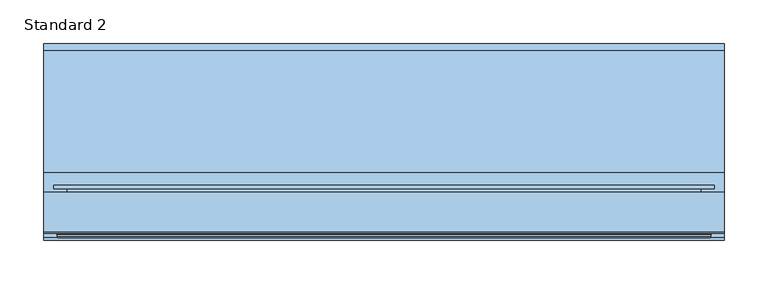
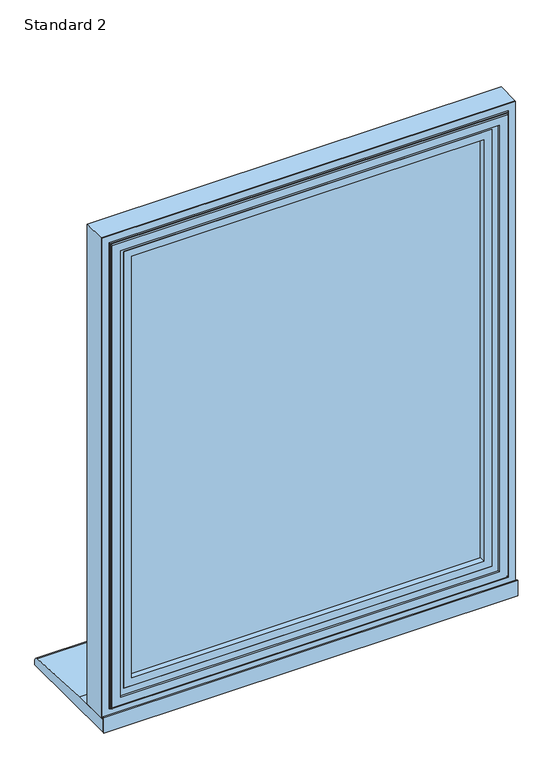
"""IFC4 building model written with IfcOpenShell, lengths in millimetres: window geometry, SMARTS_AlithermHeritage : Standard 2."""

from ifc_helpers import new_model, si_unit, point, frame, frame_2d, origin, place, context, project, spatial, polyline, circle_curve, ellipse_curve, trimmed, segment, composite_curve, outline, extrude, source, transform, mapped, element, save
from ifc_brep_helpers import plane_surface, cylinder_surface, revolved_surface, advanced_brep


def standard_2_ab6319b0(model_context):
    return source(origin(), model_context, "Body", "SolidModel", [
        extrude(outline(polyline([(1590.0, 390.0), (1590.0, -390.0), (635.0, -390.0), (635.0, 390.0), (1590.0, 390.0)]), holes=[polyline([(652.7000182, 372.2999818), (652.7000182, -372.2999818), (1572.2999818, -372.2999818), (1572.2999818, 372.2999818), (652.7000182, 372.2999818)])]), frame((0.0, 50.279857, 0.0), z_axis=(0.0, 1.0, 0.0), x_axis=(0.0, 0.0, 1.0)), (0.0, 0.0, 1.0), 44.9999962),
        advanced_brep(
        [(357.0, 43.2798432, 1557.0), (357.0, 47.2798432, 1557.0), (357.0, 47.2798432, 668.0), (357.0, 43.2798432, 668.0), (390.0, 50.279857, 1590.0), (390.0, 48.279857, 1590.0), (390.0, 48.279857, 635.0), (390.0, 50.279857, 635.0), (372.4999818, 43.2798432, 1572.4999818), (-372.4999818, 43.2798432, 1572.4999818), (-372.4999818, 43.2798432, 652.5000182), (372.4999818, 43.2798432, 652.5000182), (-357.0, 43.2798432, 668.0), (-357.0, 43.2798432, 1557.0), (-390.0, 50.279857, 1590.0), (-390.0, 48.279857, 1590.0), (-390.0, 50.279857, 635.0), (372.2999818, 50.279857, 1572.2999818), (-372.2999818, 50.279857, 1572.2999818), (-372.2999818, 50.279857, 652.7000182), (372.2999818, 50.279857, 652.7000182), (-357.0, 47.2798432, 1557.0), (-357.0, 47.2798432, 668.0), (-390.0, 48.279857, 635.0), (-372.2999818, 47.2798432, 1572.2999818), (372.2999818, 47.2798432, 1572.2999818), (372.2999818, 47.2798432, 652.7000182), (374.4999818, 46.779857, 650.5000182), (374.4999818, 45.2798432, 650.5000182), (-374.4999818, 45.2798432, 650.5000182), (-374.4999818, 46.779857, 650.5000182), (374.4999818, 46.779857, 1574.4999818), (374.4999818, 45.2798432, 1574.4999818), (-372.2999818, 47.2798432, 652.7000182), (-374.4999818, 45.2798432, 1574.4999818), (-374.4999818, 46.779857, 1574.4999818), (375.9999818, 48.279857, 1575.9999818), (375.9999818, 48.279857, 649.0000182), (-375.9999818, 48.279857, 649.0000182), (-375.9999818, 48.279857, 1575.9999818)],
        [
            (0, 1),
            (1, 2),
            (2, 3),
            (3, 0),
            (4, 5),
            (5, 6),
            (6, 7),
            (7, 4),
            (8, 9),
            (9, 10),
            (10, 11),
            (11, 8),
            (3, 12),
            (12, 13),
            (13, 0),
            (14, 15),
            (15, 5),
            (4, 14),
            (7, 16),
            (16, 14),
            (17, 18),
            (18, 19),
            (19, 20),
            (20, 17),
            (13, 21),
            (21, 1),
            (2, 22),
            (22, 12),
            (22, 21),
            (6, 23),
            (23, 16),
            (23, 15),
            (24, 18),
            (17, 25),
            (25, 24),
            (20, 26),
            (26, 25),
            (27, 28),
            (28, 29),
            (29, 30),
            (30, 27),
            (31, 32),
            (32, 28),
            (27, 31),
            (19, 33),
            (33, 26),
            (24, 33),
            (29, 34),
            (34, 35),
            (35, 30),
            (34, 32),
            (31, 35),
            (36, 31, ellipse_curve(frame((375.9999818, 46.779857, 1575.9999818), z_axis=(-0.7071067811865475, 0.0, 0.7071067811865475), x_axis=(-0.7071067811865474, 0.0, -0.7071067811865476)), 2.1213203, 1.5)),
            (27, 37, ellipse_curve(frame((375.9999818, 46.779857, 649.0000182), z_axis=(-0.7071067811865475, 0.0, -0.7071067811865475), x_axis=(0.7071067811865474, 0.0, -0.7071067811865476)), 2.1213203, 1.5)),
            (37, 36),
            (30, 38, ellipse_curve(frame((-375.9999818, 46.779857, 649.0000182), z_axis=(-0.7071067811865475, 0.0, 0.7071067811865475), x_axis=(-0.7071067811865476, 0.0, -0.7071067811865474)), 2.1213203, 1.5)),
            (38, 37),
            (35, 39, ellipse_curve(frame((-375.9999818, 46.779857, 1575.9999818), z_axis=(0.7071067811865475, 0.0, 0.7071067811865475), x_axis=(-0.7071067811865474, 0.0, 0.7071067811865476)), 2.1213203, 1.5)),
            (39, 38),
            (36, 39),
            (32, 8, ellipse_curve(frame((372.4999818, 45.2798432, 1572.4999818), z_axis=(0.7071067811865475, 0.0, -0.7071067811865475), x_axis=(0.7071067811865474, 0.0, 0.7071067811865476)), 2.8284271, 2.0)),
            (11, 28, ellipse_curve(frame((372.4999818, 45.2798432, 652.5000182), z_axis=(0.7071067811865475, 0.0, 0.7071067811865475), x_axis=(-0.7071067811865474, 0.0, 0.7071067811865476)), 2.8284271, 2.0)),
            (10, 29, ellipse_curve(frame((-372.4999818, 45.2798432, 652.5000182), z_axis=(0.7071067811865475, 0.0, -0.7071067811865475), x_axis=(0.7071067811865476, 0.0, 0.7071067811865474)), 2.8284271, 2.0)),
            (9, 34, ellipse_curve(frame((-372.4999818, 45.2798432, 1572.4999818), z_axis=(-0.7071067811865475, 0.0, -0.7071067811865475), x_axis=(0.7071067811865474, 0.0, -0.7071067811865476)), 2.8284271, 2.0)),
        ],
        [
            plane_surface(frame((357.0, 47.2798432, 1557.0), z_axis=(-1.0, 0.0, 0.0), x_axis=(0.0, 0.0, -1.0))),
            plane_surface(frame((390.0, 48.279857, 1590.0), z_axis=(1.0, 0.0, 0.0), x_axis=(0.0, 0.0, -1.0))),
            plane_surface(frame((-357.0, 43.2798432, 1557.0), z_axis=(0.0, -1.0, 0.0), x_axis=(1.0, 0.0, 0.0))),
            plane_surface(frame((-390.0, 48.279857, 1590.0), z_axis=(0.0, 0.0, 1.0), x_axis=(1.0, 0.0, 0.0))),
            plane_surface(frame((-390.0, 50.279857, 1590.0), z_axis=(0.0, 1.0, 0.0), x_axis=(1.0, 0.0, 0.0))),
            plane_surface(frame((-357.0, 47.2798432, 1557.0), z_axis=(0.0, 0.0, -1.0), x_axis=(1.0, 0.0, 0.0))),
            plane_surface(frame((357.0, 47.2798432, 668.0), z_axis=(0.0, 0.0, 1.0), x_axis=(-1.0, 0.0, 0.0))),
            plane_surface(frame((-357.0, 47.2798432, 668.0), z_axis=(1.0, 0.0, 0.0), x_axis=(0.0, 0.0, 1.0))),
            plane_surface(frame((390.0, 48.279857, 635.0), z_axis=(0.0, 0.0, -1.0), x_axis=(-1.0, 0.0, 0.0))),
            plane_surface(frame((-390.0, 48.279857, 635.0), z_axis=(-1.0, 0.0, 0.0), x_axis=(0.0, 0.0, 1.0))),
            plane_surface(frame((-372.2999818, 50.279857, 1572.2999818), z_axis=(0.0, 0.0, -1.0), x_axis=(1.0, 0.0, 0.0))),
            plane_surface(frame((372.2999818, 50.279857, 1572.2999818), z_axis=(-1.0, 0.0, 0.0), x_axis=(0.0, 0.0, -1.0))),
            plane_surface(frame((374.4999818, 45.2798432, 650.5000182), z_axis=(0.0, 0.0, -1.0), x_axis=(-1.0, 0.0, 0.0))),
            plane_surface(frame((374.4999818, 45.2798432, 1574.4999818), z_axis=(1.0, 0.0, 0.0), x_axis=(0.0, 0.0, -1.0))),
            plane_surface(frame((372.2999818, 50.279857, 652.7000182), z_axis=(0.0, 0.0, 1.0), x_axis=(-1.0, 0.0, 0.0))),
            plane_surface(frame((-372.2999818, 50.279857, 652.7000182), z_axis=(1.0, 0.0, 0.0), x_axis=(0.0, 0.0, 1.0))),
            plane_surface(frame((-374.4999818, 45.2798432, 650.5000182), z_axis=(-1.0, 0.0, 0.0), x_axis=(0.0, 0.0, 1.0))),
            plane_surface(frame((-372.2999818, 47.2798432, 1572.2999818), z_axis=(0.0, 1.0, 0.0), x_axis=(1.0, 0.0, 0.0))),
            plane_surface(frame((-374.4999818, 45.2798432, 1574.4999818), z_axis=(0.0, 0.0, 1.0), x_axis=(1.0, 0.0, 0.0))),
            revolved_surface(polyline([(374.4999818, 46.779857, 647.5000182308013), (374.4999818, 46.779857, 1577.4999817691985)]), (375.9999818, 46.779857, 1590.0), (0.0, 0.0, -1.0)),
            revolved_surface(polyline([(-377.4999817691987, 46.779857, 650.5000182), (377.49998176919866, 46.779857, 650.5000182)]), (390.0, 46.779857, 649.0000182), (-1.0, 0.0, 0.0)),
            revolved_surface(polyline([(-374.4999818, 46.779857, 1577.4999817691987), (-374.4999818, 46.779857, 647.5000182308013)]), (-375.9999818, 46.779857, 635.0), (0.0, 0.0, 1.0)),
            revolved_surface(polyline([(377.4999817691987, 46.779857, 1574.4999818), (-377.49998176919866, 46.779857, 1574.4999818)]), (-390.0, 46.779857, 1575.9999818), (1.0, 0.0, 0.0)),
            plane_surface(frame((-375.9999818, 48.279857, 1575.9999818), z_axis=(0.0, -1.0, 0.0), x_axis=(1.0, 0.0, 0.0))),
            cylinder_surface(frame((372.4999818, 45.2798432, 1590.0), z_axis=(0.0, 0.0, 1.0), x_axis=(-1.0, 0.0, 0.0)), 2.0),
            cylinder_surface(frame((390.0, 45.2798432, 652.5000182), z_axis=(1.0, 0.0, 0.0), x_axis=(0.0, 0.0, 1.0)), 2.0),
            cylinder_surface(frame((-372.4999818, 45.2798432, 635.0), z_axis=(0.0, 0.0, -1.0), x_axis=(1.0, 0.0, 0.0)), 2.0),
            cylinder_surface(frame((-390.0, 45.2798432, 1572.4999818), z_axis=(-1.0, 0.0, 0.0), x_axis=(0.0, 0.0, -1.0)), 2.0),
        ],
        [
            (0, [[1, 2, 3, 4]]),
            (1, [[5, 6, 7, 8]]),
            (2, [[9, 10, 11, 12], [13, 14, 15, -4]]),
            (3, [[16, 17, -5, 18]]),
            (4, [[19, 20, -18, -8], [21, 22, 23, 24]]),
            (5, [[25, 26, -1, -15]]),
            (6, [[-3, 27, 28, -13]]),
            (7, [[-28, 29, -25, -14]]),
            (8, [[-7, 30, 31, -19]]),
            (9, [[-31, 32, -16, -20]]),
            (10, [[33, -21, 34, 35]]),
            (11, [[-34, -24, 36, 37]]),
            (12, [[38, 39, 40, 41]]),
            (13, [[42, 43, -38, 44]]),
            (14, [[-36, -23, 45, 46]]),
            (15, [[-45, -22, -33, 47]]),
            (16, [[-40, 48, 49, 50]]),
            (17, [[-46, -47, -35, -37], [-26, -29, -27, -2]]),
            (18, [[-49, 51, -42, 52]]),
            (19, [[53, -44, 54, 55]]),
            (20, [[-54, -41, 56, 57]]),
            (21, [[-56, -50, 58, 59]]),
            (22, [[-58, -52, -53, 60]]),
            (23, [[-17, -32, -30, -6], [-57, -59, -60, -55]]),
            (24, [[61, -12, 62, -43]]),
            (25, [[-62, -11, 63, -39]]),
            (26, [[-63, -10, 64, -48]]),
            (27, [[-64, -9, -61, -51]]),
        ],
    ),
        extrude(outline(polyline([(-343.5, 89.2798432), (343.5, 89.2798432), (343.5, 85.2798432), (-343.5, 85.2798432), (-343.5, 89.2798432)])), frame((0.0, 0.0, 681.5), z_axis=(0.0, 0.0, 1.0), x_axis=(1.0, 0.0, 0.0)), (0.0, 0.0, 1.0), 862.0),
        extrude(outline(polyline([(-343.5, 69.2798432), (343.5, 69.2798432), (343.5, 65.2798432), (-343.5, 65.2798432), (-343.5, 69.2798432)])), frame((0.0, 0.0, 681.5), z_axis=(0.0, 0.0, 1.0), x_axis=(1.0, 0.0, 0.0)), (0.0, 0.0, 1.0), 862.0),
        extrude(outline(polyline([(1543.5, -343.5), (681.5, -343.5), (681.5, 343.5), (1543.5, 343.5), (1543.5, -343.5)]), holes=[polyline([(1533.5, 333.5), (691.5, 333.5), (691.5, -333.5), (1533.5, -333.5), (1533.5, 333.5)])]), frame((0.0, 69.2798432, 0.0), z_axis=(0.0, 1.0, 0.0), x_axis=(0.0, 0.0, 1.0)), (0.0, 0.0, 1.0), 16.0),
        extrude(outline(polyline([(1547.0052956, -347.0052956), (677.9947044, -347.0052956), (677.9947044, 347.0052956), (1547.0052956, 347.0052956), (1547.0052956, -347.0052956)]), holes=[polyline([(1532.0, 332.0), (693.0, 332.0), (693.0, -332.0), (1532.0, -332.0), (1532.0, 332.0)])]), frame((0.0, 51.2798432, 0.0), z_axis=(0.0, 1.0, 0.0), x_axis=(0.0, 0.0, 1.0)), (0.0, 0.0, 1.0), 11.3),
        extrude(outline(polyline([(662.3548042, -362.6451958), (662.3548042, 362.6451958), (1562.6451958, 362.6451958), (1562.6451958, -362.6451958), (662.3548042, -362.6451958)]), holes=[polyline([(1547.0, -347.0), (1547.0, 347.0), (678.0, 347.0), (678.0, -347.0), (1547.0, -347.0)])]), frame((0.0, 51.2798432, 0.0), z_axis=(0.0, 1.0, 0.0), x_axis=(0.0, 0.0, 1.0)), (0.0, 0.0, 1.0), 41.6),
        advanced_brep(
        [(-332.0, 98.0798432, 1532.0), (-332.0, 92.8798432, 1532.0), (-332.0, 92.8798432, 693.0), (-332.0, 98.0798432, 693.0), (332.0, 92.8798432, 693.0), (332.0, 98.0798432, 693.0), (332.0, 92.8798432, 1532.0), (332.0, 98.0798432, 1532.0), (-378.2, 99.2798432, 1578.2), (-378.2, 103.2798432, 1578.2), (-378.2, 103.2798432, 646.8), (-378.2, 99.2798432, 646.8), (378.2, 103.2798432, 646.8), (378.2, 99.2798432, 646.8), (378.2, 103.2798432, 1578.2), (378.2, 99.2798432, 1578.2), (-363.1467657, 99.2798432, 1563.1467657), (363.1467657, 99.2798432, 1563.1467657), (363.1467657, 99.2798432, 661.8532343), (-363.1467657, 99.2798432, 661.8532343), (-349.2, 103.2798432, 675.8), (349.2, 103.2798432, 675.8), (349.2, 103.2798432, 1549.2), (-349.2, 103.2798432, 1549.2), (-363.1467657, 92.8798432, 1563.1467657), (-363.1467657, 92.8798432, 661.8532343), (363.1467657, 92.8798432, 661.8532343), (363.1467657, 92.8798432, 1563.1467657), (-347.2, 101.2798432, 1547.2), (-347.2, 100.0798432, 1547.2), (-347.2, 100.0798432, 677.8), (-347.2, 101.2798432, 677.8), (-345.2, 98.0798432, 1545.2), (-345.2, 98.0798432, 679.8), (347.2, 100.0798432, 677.8), (347.2, 101.2798432, 677.8), (345.2, 98.0798432, 679.8), (347.2, 100.0798432, 1547.2), (347.2, 101.2798432, 1547.2), (345.2, 98.0798432, 1545.2)],
        [
            (0, 1),
            (1, 2),
            (2, 3),
            (3, 0),
            (2, 4),
            (4, 5),
            (5, 3),
            (4, 6),
            (6, 7),
            (7, 5),
            (6, 1),
            (0, 7),
            (8, 9),
            (9, 10),
            (10, 11),
            (11, 8),
            (10, 12),
            (12, 13),
            (13, 11),
            (12, 14),
            (14, 15),
            (15, 13),
            (15, 8),
            (16, 17),
            (17, 18),
            (18, 19),
            (19, 16),
            (14, 9),
            (20, 21),
            (21, 22),
            (22, 23),
            (23, 20),
            (24, 16),
            (19, 25),
            (25, 24),
            (18, 26),
            (26, 25),
            (17, 27),
            (27, 26),
            (27, 24),
            (28, 29),
            (29, 30),
            (30, 31),
            (31, 28),
            (29, 32, ellipse_curve(frame((-345.2, 100.0798432, 1545.2), z_axis=(0.7071067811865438, 0.0, 0.7071067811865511), x_axis=(0.707106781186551, 0.0, -0.7071067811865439)), 2.8284271, 2.0)),
            (32, 33),
            (33, 30, ellipse_curve(frame((-345.2, 100.0798432, 679.8), z_axis=(0.7071067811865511, 0.0, -0.7071067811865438), x_axis=(-0.7071067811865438, 0.0, -0.7071067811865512)), 2.8284271, 2.0)),
            (30, 34),
            (34, 35),
            (35, 31),
            (33, 36),
            (36, 34, ellipse_curve(frame((345.2, 100.0798432, 679.8), z_axis=(0.7071067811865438, 0.0, 0.7071067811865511), x_axis=(0.7071067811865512, 0.0, -0.7071067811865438)), 2.8284271, 2.0)),
            (34, 37),
            (37, 38),
            (38, 35),
            (36, 39),
            (39, 37, ellipse_curve(frame((345.2, 100.0798432, 1545.2), z_axis=(-0.7071067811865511, 0.0, 0.7071067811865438), x_axis=(0.7071067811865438, 0.0, 0.7071067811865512)), 2.8284271, 2.0)),
            (32, 39),
            (37, 29),
            (28, 38),
            (23, 28, ellipse_curve(frame((-349.2, 101.2798432, 1549.2), z_axis=(-0.7071067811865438, 0.0, -0.7071067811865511), x_axis=(-0.707106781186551, 0.0, 0.7071067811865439)), 2.8284271, 2.0)),
            (31, 20, ellipse_curve(frame((-349.2, 101.2798432, 675.8), z_axis=(-0.7071067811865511, 0.0, 0.7071067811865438), x_axis=(0.7071067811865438, 0.0, 0.7071067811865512)), 2.8284271, 2.0)),
            (35, 21, ellipse_curve(frame((349.2, 101.2798432, 675.8), z_axis=(-0.7071067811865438, 0.0, -0.7071067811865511), x_axis=(-0.7071067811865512, 0.0, 0.7071067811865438)), 2.8284271, 2.0)),
            (38, 22, ellipse_curve(frame((349.2, 101.2798432, 1549.2), z_axis=(0.7071067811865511, 0.0, -0.7071067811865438), x_axis=(-0.7071067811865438, 0.0, -0.7071067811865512)), 2.8284271, 2.0)),
        ],
        [
            plane_surface(frame((-332.0, 92.8798432, 1532.0), z_axis=(1.0, 0.0, 0.0), x_axis=(0.0, 0.0, -1.0))),
            plane_surface(frame((-332.0, 92.8798432, 693.0), z_axis=(0.0, 0.0, 1.0), x_axis=(1.0, 0.0, 0.0))),
            plane_surface(frame((332.0, 92.8798432, 693.0), z_axis=(-1.0, 0.0, 0.0), x_axis=(0.0, 0.0, 1.0))),
            plane_surface(frame((332.0, 92.8798432, 1532.0), z_axis=(0.0, 0.0, -1.0), x_axis=(-1.0, 0.0, 0.0))),
            plane_surface(frame((-378.2, 103.2798432, 1578.2), z_axis=(-1.0, 0.0, 0.0), x_axis=(0.0, 0.0, -1.0))),
            plane_surface(frame((-378.2, 103.2798432, 646.8), z_axis=(0.0, 0.0, -1.0), x_axis=(1.0, 0.0, 0.0))),
            plane_surface(frame((378.2, 103.2798432, 646.8), z_axis=(1.0, 0.0, 0.0), x_axis=(0.0, 0.0, 1.0))),
            plane_surface(frame((378.2, 99.2798432, 1578.2), z_axis=(0.0, -1.0, 0.0), x_axis=(-1.0, 0.0, 0.0))),
            plane_surface(frame((378.2, 103.2798432, 1578.2), z_axis=(0.0, 0.0, 1.0), x_axis=(-1.0, 0.0, 0.0))),
            plane_surface(frame((349.2, 103.2798432, 1549.2), z_axis=(0.0, 1.0, 0.0), x_axis=(-1.0, 0.0, 0.0))),
            plane_surface(frame((-363.1467657, 99.2798432, 1563.1467657), z_axis=(-1.0, 0.0, 0.0), x_axis=(0.0, 0.0, -1.0))),
            plane_surface(frame((-363.1467657, 99.2798432, 661.8532343), z_axis=(0.0, 0.0, -1.0), x_axis=(1.0, 0.0, 0.0))),
            plane_surface(frame((363.1467657, 99.2798432, 661.8532343), z_axis=(1.0, 0.0, 0.0), x_axis=(0.0, 0.0, 1.0))),
            plane_surface(frame((363.1467657, 92.8798432, 1563.1467657), z_axis=(0.0, -1.0, 0.0), x_axis=(-1.0, 0.0, 0.0))),
            plane_surface(frame((363.1467657, 99.2798432, 1563.1467657), z_axis=(0.0, 0.0, 1.0), x_axis=(-1.0, 0.0, 0.0))),
            plane_surface(frame((-347.2, 100.0798432, 1547.2), z_axis=(1.0, 0.0, 0.0), x_axis=(0.0, 0.0, -1.0))),
            revolved_surface(polyline([(-347.2, 100.0798432, 677.8), (-347.2, 100.0798432, 1547.2)]), (-345.2, 100.0798432, 1557.0), (0.0, 0.0, -1.0)),
            plane_surface(frame((-347.2, 100.0798432, 677.8), z_axis=(0.0, 0.0, 1.0), x_axis=(1.0, 0.0, 0.0))),
            revolved_surface(polyline([(347.20000000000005, 100.0798432, 677.8), (-347.2, 100.0798432, 677.8)]), (-357.0, 100.0798432, 679.8), (1.0, 0.0, 0.0)),
            plane_surface(frame((347.2, 100.0798432, 677.8), z_axis=(-1.0, 0.0, 0.0), x_axis=(0.0, 0.0, 1.0))),
            revolved_surface(polyline([(347.2, 100.0798432, 1547.2), (347.2, 100.0798432, 677.8)]), (345.2, 100.0798432, 668.0), (0.0, 0.0, 1.0)),
            plane_surface(frame((332.0, 98.0798432, 1532.0), z_axis=(0.0, 1.0, 0.0), x_axis=(-1.0, 0.0, 0.0))),
            plane_surface(frame((347.2, 100.0798432, 1547.2), z_axis=(0.0, 0.0, -1.0), x_axis=(-1.0, 0.0, 0.0))),
            revolved_surface(polyline([(-347.20000000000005, 100.0798432, 1547.2), (347.2, 100.0798432, 1547.2)]), (357.0, 100.0798432, 1545.2), (-1.0, 0.0, 0.0)),
            cylinder_surface(frame((-349.2, 101.2798432, 1557.0), z_axis=(0.0, 0.0, 1.0), x_axis=(-1.0, 0.0, 0.0)), 2.0),
            cylinder_surface(frame((-357.0, 101.2798432, 675.8), z_axis=(-1.0, 0.0, 0.0), x_axis=(0.0, 0.0, -1.0)), 2.0),
            cylinder_surface(frame((349.2, 101.2798432, 668.0), z_axis=(0.0, 0.0, -1.0), x_axis=(1.0, 0.0, 0.0)), 2.0),
            cylinder_surface(frame((357.0, 101.2798432, 1549.2), z_axis=(1.0, 0.0, 0.0), x_axis=(0.0, 0.0, 1.0)), 2.0),
        ],
        [
            (0, [[1, 2, 3, 4]]),
            (1, [[-3, 5, 6, 7]]),
            (2, [[-6, 8, 9, 10]]),
            (3, [[-9, 11, -1, 12]]),
            (4, [[13, 14, 15, 16]]),
            (5, [[-15, 17, 18, 19]]),
            (6, [[-18, 20, 21, 22]]),
            (7, [[-19, -22, 23, -16], [24, 25, 26, 27]]),
            (8, [[-21, 28, -13, -23]]),
            (9, [[-28, -20, -17, -14], [29, 30, 31, 32]]),
            (10, [[33, -27, 34, 35]]),
            (11, [[-34, -26, 36, 37]]),
            (12, [[-36, -25, 38, 39]]),
            (13, [[-37, -39, 40, -35], [-11, -8, -5, -2]]),
            (14, [[-38, -24, -33, -40]]),
            (15, [[41, 42, 43, 44]]),
            (16, [[45, 46, 47, -42]]),
            (17, [[-43, 48, 49, 50]]),
            (18, [[-47, 51, 52, -48]]),
            (19, [[-49, 53, 54, 55]]),
            (20, [[-52, 56, 57, -53]]),
            (21, [[58, -56, -51, -46], [-7, -10, -12, -4]]),
            (22, [[-54, 59, -41, 60]]),
            (23, [[-57, -58, -45, -59]]),
            (24, [[61, -44, 62, -32]]),
            (25, [[-62, -50, 63, -29]]),
            (26, [[-63, -55, 64, -30]]),
            (27, [[-64, -60, -61, -31]]),
        ],
    ),
        extrude(outline(polyline([(390.0, 43.2798432), (390.0, 40.7798432), (-390.0, 40.7798432), (-390.0, 43.2798432), (390.0, 43.2798432)])), frame((0.0, 0.0, 610.0), z_axis=(0.0, 0.0, 1.0), x_axis=(1.0, 0.0, 0.0)), (0.0, 0.0, 1.0), 31.0),
        extrude(outline(composite_curve([segment(polyline([(265.7798432, 610.0), (43.2798432, 610.0), (43.2798432, 635.0), (118.7798432, 635.0), (258.4770891, 625.9276664)]), True, "CONTINUOUS"), segment(trimmed(circle_curve(frame_2d((257.7798432, 617.9581088)), 8.0), [point((258.4770891, 625.9276664))], [point((265.7798432, 617.9581088))], False, "CARTESIAN"), True, "CONTINUOUS"), segment(polyline([(265.7798432, 617.9581088), (265.7798432, 610.0)]), True, "CONTINUOUS")], self_intersect=False)), frame((-390.0, 0.0, 0.0), z_axis=(1.0, 0.0, 0.0), x_axis=(0.0, 1.0, 0.0)), (0.0, 0.0, 1.0), 780.0),
    ])


if __name__ == "__main__":
    model = new_model("IFC4")
    model_context = context("Model", 3, world=origin())
    ifc_project = project(units=[si_unit("LENGTHUNIT", "METRE", prefix="MILLI")], contexts=[model_context])
    site = spatial("IfcSite", under=ifc_project)
    building = spatial("IfcBuilding", under=site)
    placement = place(None, origin())
    standard_2_shape = standard_2_ab6319b0(model_context)
    element("IfcWindow", 1, ObjectType="SMARTS_AlithermHeritage : Standard 2", at=placement, inside=building, context=model_context, shape_type="MappedRepresentation", body=[
        mapped(standard_2_shape, transform((0.0, 0.0, 0.0), x_axis=(1.0, 0.0, 0.0), y_axis=(0.0, 1.0, 0.0), z_axis=(0.0, 0.0, 1.0))),
    ])
    save(model, "model.ifc")
